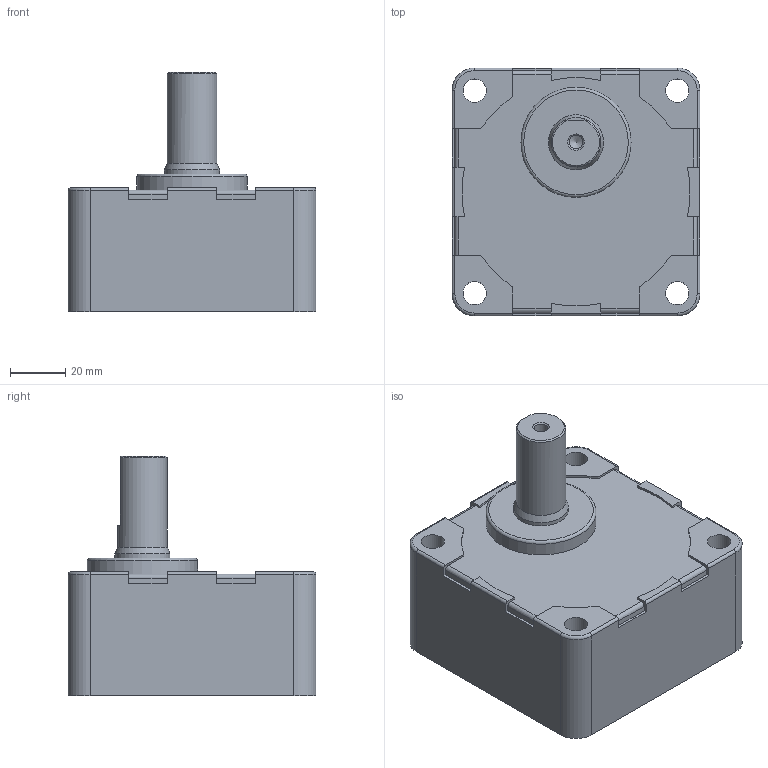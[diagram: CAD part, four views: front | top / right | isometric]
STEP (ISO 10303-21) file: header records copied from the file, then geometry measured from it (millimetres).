
FILE_DESCRIPTION(/* description */ (''),/* implementation_level */ '2;1');
FILE_NAME(/* name */ 'E:\도면작업\2016\0704) 미주향 SG 도면\3D GEAR HEAD\SG9DC5~15.stp',/* time_stamp */ '2016-07-22T14:04:15+09:00',/* author */ ('jy-jung'),/* organization */ (''),/* preprocessor_version */ 'ST-DEVELOPER v15.6',/* originating_system */ 'Autodesk Inventor 2015',/* authorisation */ '');
FILE_SCHEMA (('AUTOMOTIVE_DESIGN { 1 0 10303 214 3 1 1 }'));
Length unit declared in the file: millimetre
Products named in the file (1): SG9DC5~15
Bounding box: 90 x 90 x 87 mm (x, y, z)
Volume: 347315.7 mm3; surface area: 40172.4 mm2
Topology: 1 solids, 1 shells, 104 faces, 279 edges, 181 vertices
Faces by surface type: plane 52, cylinder 41, cone 6, torus 5
Full cylindrical faces by diameter (mm): 4.917 x1, 8.5 x4, 10.5 x1, 18 x1, 20 x1, 40 x1, 83 x1
Entity records: 3195 total; most frequent: DIRECTION 561, CARTESIAN_POINT 549, ORIENTED_EDGE 522, EDGE_CURVE 261, AXIS2_PLACEMENT_3D 197, VERTEX_POINT 179, LINE 167, VECTOR 167
